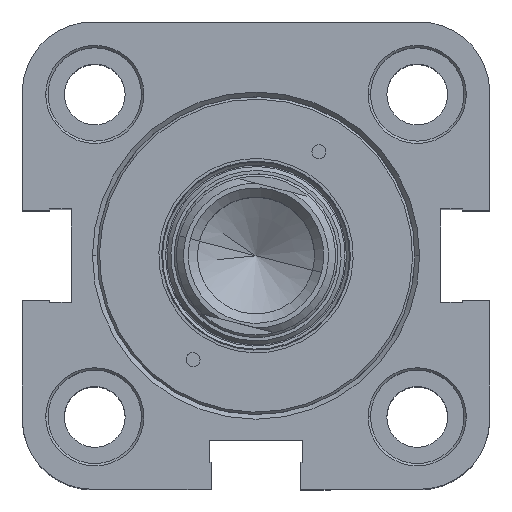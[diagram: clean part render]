
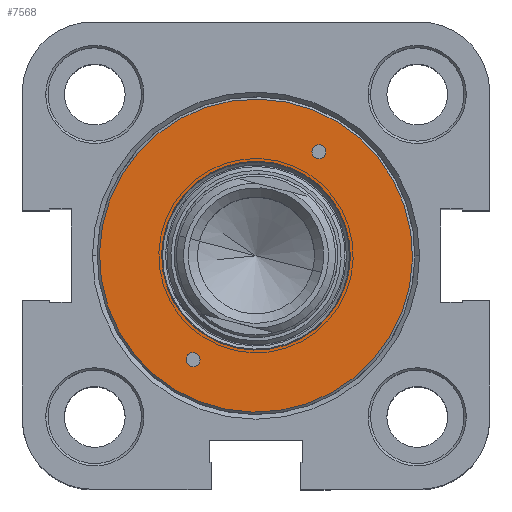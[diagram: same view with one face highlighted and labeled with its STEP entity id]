
A CAD part, top view. The second image highlights one B-rep face of the part: STEP entity #7568.
In plain terms, the highlighted planar face has unit normal (0, 0, 1) as drawn and (-1, 0, 0) by its records, which use the part's own axes.
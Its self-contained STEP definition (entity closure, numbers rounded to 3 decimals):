
#115 = AXIS2_PLACEMENT_3D ( 'NONE', #14315, #17396, #7816 ) ;
#117 = CIRCLE ( 'NONE', #6964, 1.5 ) ;
#246 = CARTESIAN_POINT ( 'NONE',  ( 0., 0., 0. ) ) ;
#509 = DIRECTION ( 'NONE',  ( 0., 0., -1. ) ) ;
#646 = AXIS2_PLACEMENT_3D ( 'NONE', #3486, #13184, #509 ) ;
#858 = AXIS2_PLACEMENT_3D ( 'NONE', #3616, #11453, #3485 ) ;
#1332 = CARTESIAN_POINT ( 'NONE',  ( 0., 0., 27.5 ) ) ;
#1344 = EDGE_CURVE ( 'NONE', #17294, #10904, #20524, .T. ) ;
#1475 = CARTESIAN_POINT ( 'NONE',  ( 0., 0., 26. ) ) ;
#1548 = VERTEX_POINT ( 'NONE', #19805 ) ;
#1798 = ORIENTED_EDGE ( 'NONE', *, *, #3166, .F. ) ;
#1919 = EDGE_LOOP ( 'NONE', ( #6406, #12720 ) ) ;
#2020 = VERTEX_POINT ( 'NONE', #9624 ) ;
#3141 = FACE_BOUND ( 'NONE', #14151, .T. ) ;
#3166 = EDGE_CURVE ( 'NONE', #19100, #14152, #117, .T. ) ;
#3485 = DIRECTION ( 'NONE',  ( 0., 0., -1. ) ) ;
#3486 = CARTESIAN_POINT ( 'NONE',  ( 0., 0., 26. ) ) ;
#3492 = CARTESIAN_POINT ( 'NONE',  ( 0., 0., -27.5 ) ) ;
#3509 = ORIENTED_EDGE ( 'NONE', *, *, #1344, .T. ) ;
#3616 = CARTESIAN_POINT ( 'NONE',  ( 0., 17.5, 0. ) ) ;
#3835 = CARTESIAN_POINT ( 'NONE',  ( 0., 0., 0. ) ) ;
#4125 = ORIENTED_EDGE ( 'NONE', *, *, #4316, .T. ) ;
#4203 = CIRCLE ( 'NONE', #14749, 1.5 ) ;
#4226 = VERTEX_POINT ( 'NONE', #16934 ) ;
#4316 = EDGE_CURVE ( 'NONE', #10904, #17294, #17089, .T. ) ;
#4724 = AXIS2_PLACEMENT_3D ( 'NONE', #13193, #9520, #11676 ) ;
#6401 = DIRECTION ( 'NONE',  ( 0., 0., 1. ) ) ;
#6406 = ORIENTED_EDGE ( 'NONE', *, *, #14153, .F. ) ;
#6929 = PLANE ( 'NONE',  #858 ) ;
#6948 = DIRECTION ( 'NONE',  ( 0., 0., -1. ) ) ;
#6964 = AXIS2_PLACEMENT_3D ( 'NONE', #1475, #7714, #9329 ) ;
#7364 = CARTESIAN_POINT ( 'NONE',  ( 0., 0., -26. ) ) ;
#7568 = ADVANCED_FACE ( 'NONE', ( #20187, #8406, #3141, #14406 ), #6929, .F. ) ;
#7714 = DIRECTION ( 'NONE',  ( -1., 0., 0. ) ) ;
#7728 = CIRCLE ( 'NONE', #646, 1.5 ) ;
#7816 = DIRECTION ( 'NONE',  ( 0., 0., -1. ) ) ;
#7832 = CIRCLE ( 'NONE', #20447, 20.2 ) ;
#8406 = FACE_BOUND ( 'NONE', #14246, .T. ) ;
#8672 = CARTESIAN_POINT ( 'NONE',  ( 0., 0., -33.5 ) ) ;
#8713 = EDGE_CURVE ( 'NONE', #1548, #2020, #7832, .T. ) ;
#8882 = AXIS2_PLACEMENT_3D ( 'NONE', #246, #11472, #13121 ) ;
#9034 = CARTESIAN_POINT ( 'NONE',  ( 0., 0., 33.5 ) ) ;
#9329 = DIRECTION ( 'NONE',  ( 0., 0., -1. ) ) ;
#9520 = DIRECTION ( 'NONE',  ( 1., 0., 0. ) ) ;
#9624 = CARTESIAN_POINT ( 'NONE',  ( 0., 0., 20.2 ) ) ;
#10115 = CIRCLE ( 'NONE', #4724, 20.2 ) ;
#10309 = EDGE_LOOP ( 'NONE', ( #3509, #4125 ) ) ;
#10410 = ORIENTED_EDGE ( 'NONE', *, *, #16623, .T. ) ;
#10669 = EDGE_CURVE ( 'NONE', #14152, #19100, #7728, .T. ) ;
#10904 = VERTEX_POINT ( 'NONE', #9034 ) ;
#11453 = DIRECTION ( 'NONE',  ( 1., 0., 0. ) ) ;
#11472 = DIRECTION ( 'NONE',  ( -1., 0., 0. ) ) ;
#11676 = DIRECTION ( 'NONE',  ( 0., 0., -1. ) ) ;
#11804 = CARTESIAN_POINT ( 'NONE',  ( 0., 0., 24.5 ) ) ;
#12168 = DIRECTION ( 'NONE',  ( -1., 0., 0. ) ) ;
#12720 = ORIENTED_EDGE ( 'NONE', *, *, #18204, .F. ) ;
#13121 = DIRECTION ( 'NONE',  ( 0., 0., -1. ) ) ;
#13184 = DIRECTION ( 'NONE',  ( -1., 0., 0. ) ) ;
#13193 = CARTESIAN_POINT ( 'NONE',  ( 0., 0., 0. ) ) ;
#13729 = ORIENTED_EDGE ( 'NONE', *, *, #8713, .T. ) ;
#13937 = DIRECTION ( 'NONE',  ( 0., 0., 1. ) ) ;
#14151 = EDGE_LOOP ( 'NONE', ( #10410, #13729 ) ) ;
#14152 = VERTEX_POINT ( 'NONE', #11804 ) ;
#14153 = EDGE_CURVE ( 'NONE', #4226, #17902, #4203, .T. ) ;
#14246 = EDGE_LOOP ( 'NONE', ( #1798, #17072 ) ) ;
#14315 = CARTESIAN_POINT ( 'NONE',  ( 0., 0., 0. ) ) ;
#14406 = FACE_OUTER_BOUND ( 'NONE', #10309, .T. ) ;
#14749 = AXIS2_PLACEMENT_3D ( 'NONE', #7364, #12168, #13937 ) ;
#16623 = EDGE_CURVE ( 'NONE', #2020, #1548, #10115, .T. ) ;
#16934 = CARTESIAN_POINT ( 'NONE',  ( 0., 0., -24.5 ) ) ;
#17072 = ORIENTED_EDGE ( 'NONE', *, *, #10669, .F. ) ;
#17089 = CIRCLE ( 'NONE', #8882, 33.5 ) ;
#17294 = VERTEX_POINT ( 'NONE', #8672 ) ;
#17396 = DIRECTION ( 'NONE',  ( -1., 0., 0. ) ) ;
#17902 = VERTEX_POINT ( 'NONE', #3492 ) ;
#18040 = DIRECTION ( 'NONE',  ( 1., 0., 0. ) ) ;
#18204 = EDGE_CURVE ( 'NONE', #17902, #4226, #19541, .T. ) ;
#19075 = AXIS2_PLACEMENT_3D ( 'NONE', #20347, #20561, #6401 ) ;
#19100 = VERTEX_POINT ( 'NONE', #1332 ) ;
#19541 = CIRCLE ( 'NONE', #19075, 1.5 ) ;
#19805 = CARTESIAN_POINT ( 'NONE',  ( 0., 0., -20.2 ) ) ;
#20187 = FACE_BOUND ( 'NONE', #1919, .T. ) ;
#20347 = CARTESIAN_POINT ( 'NONE',  ( 0., 0., -26. ) ) ;
#20447 = AXIS2_PLACEMENT_3D ( 'NONE', #3835, #18040, #6948 ) ;
#20524 = CIRCLE ( 'NONE', #115, 33.5 ) ;
#20561 = DIRECTION ( 'NONE',  ( -1., 0., 0. ) ) ;
